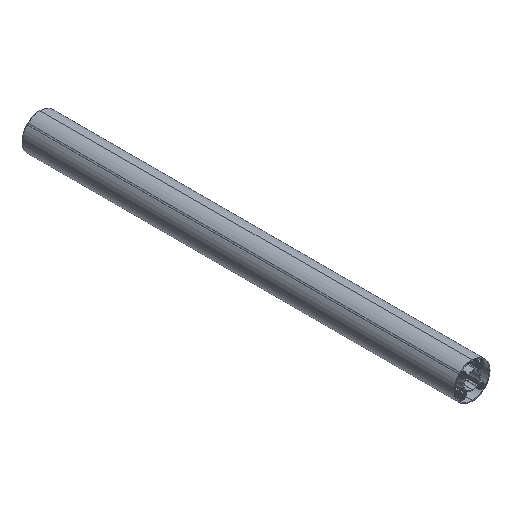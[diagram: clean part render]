
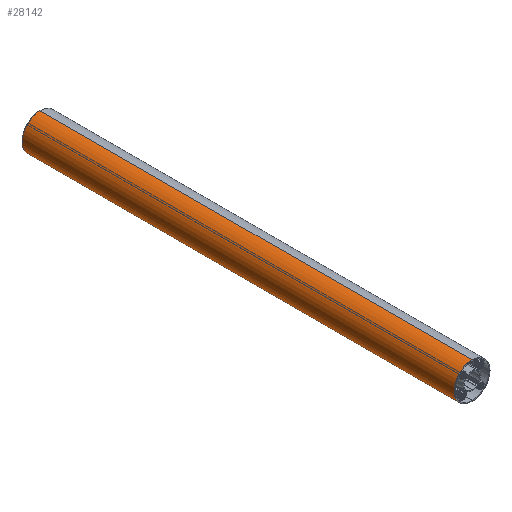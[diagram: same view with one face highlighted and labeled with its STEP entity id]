
A CAD part, isometric view. The second image highlights one B-rep face of the part: STEP entity #28142.
In plain terms, the highlighted cylindrical face has radius 15.975 mm (diameter 31.95 mm), a partial arc.
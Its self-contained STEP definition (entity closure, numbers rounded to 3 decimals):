
#554 = CIRCLE ( 'NONE', #18327, 15.975 ) ;
#1991 = CARTESIAN_POINT ( 'NONE',  ( 0., 0., 0. ) ) ;
#2394 = AXIS2_PLACEMENT_3D ( 'NONE', #1991, #29594, #40981 ) ;
#3624 = ORIENTED_EDGE ( 'NONE', *, *, #37666, .T. ) ;
#5016 = LINE ( 'NONE', #16016, #22921 ) ;
#5262 = VERTEX_POINT ( 'NONE', #13240 ) ;
#8978 = EDGE_LOOP ( 'NONE', ( #42799, #21046, #12717, #3624 ) ) ;
#10864 = CARTESIAN_POINT ( 'NONE',  ( 0., 384., 0. ) ) ;
#11037 = DIRECTION ( 'NONE',  ( 0., 0., -1. ) ) ;
#11650 = CARTESIAN_POINT ( 'NONE',  ( 0., 0., 15.975 ) ) ;
#12078 = EDGE_CURVE ( 'NONE', #5262, #43568, #554, .T. ) ;
#12717 = ORIENTED_EDGE ( 'NONE', *, *, #43781, .T. ) ;
#13240 = CARTESIAN_POINT ( 'NONE',  ( 0., 384., -15.975 ) ) ;
#15495 = LINE ( 'NONE', #50983, #18558 ) ;
#16016 = CARTESIAN_POINT ( 'NONE',  ( 0., 384., 15.975 ) ) ;
#18327 = AXIS2_PLACEMENT_3D ( 'NONE', #37896, #22374, #26139 ) ;
#18558 = VECTOR ( 'NONE', #30710, 1000. ) ;
#19889 = VERTEX_POINT ( 'NONE', #11650 ) ;
#19958 = DIRECTION ( 'NONE',  ( 0., -1., 0. ) ) ;
#20136 = CARTESIAN_POINT ( 'NONE',  ( 0., 0., -15.975 ) ) ;
#20572 = CYLINDRICAL_SURFACE ( 'NONE', #34806, 15.975 ) ;
#21046 = ORIENTED_EDGE ( 'NONE', *, *, #12078, .F. ) ;
#22374 = DIRECTION ( 'NONE',  ( 0., 1., 0. ) ) ;
#22921 = VECTOR ( 'NONE', #19958, 1000. ) ;
#26139 = DIRECTION ( 'NONE',  ( 0., 0., 1. ) ) ;
#28142 = ADVANCED_FACE ( 'NONE', ( #29834 ), #20572, .T. ) ;
#29398 = CIRCLE ( 'NONE', #2394, 15.975 ) ;
#29594 = DIRECTION ( 'NONE',  ( 0., 1., 0. ) ) ;
#29834 = FACE_OUTER_BOUND ( 'NONE', #8978, .T. ) ;
#30710 = DIRECTION ( 'NONE',  ( 0., -1., 0. ) ) ;
#30906 = EDGE_CURVE ( 'NONE', #43568, #19889, #5016, .T. ) ;
#34639 = DIRECTION ( 'NONE',  ( 0., -1., 0. ) ) ;
#34806 = AXIS2_PLACEMENT_3D ( 'NONE', #10864, #34639, #11037 ) ;
#37666 = EDGE_CURVE ( 'NONE', #45336, #19889, #29398, .T. ) ;
#37896 = CARTESIAN_POINT ( 'NONE',  ( 0., 384., 0. ) ) ;
#40981 = DIRECTION ( 'NONE',  ( 0., 0., 1. ) ) ;
#41270 = CARTESIAN_POINT ( 'NONE',  ( 0., 384., 15.975 ) ) ;
#42799 = ORIENTED_EDGE ( 'NONE', *, *, #30906, .F. ) ;
#43568 = VERTEX_POINT ( 'NONE', #41270 ) ;
#43781 = EDGE_CURVE ( 'NONE', #5262, #45336, #15495, .T. ) ;
#45336 = VERTEX_POINT ( 'NONE', #20136 ) ;
#50983 = CARTESIAN_POINT ( 'NONE',  ( 0., 384., -15.975 ) ) ;
